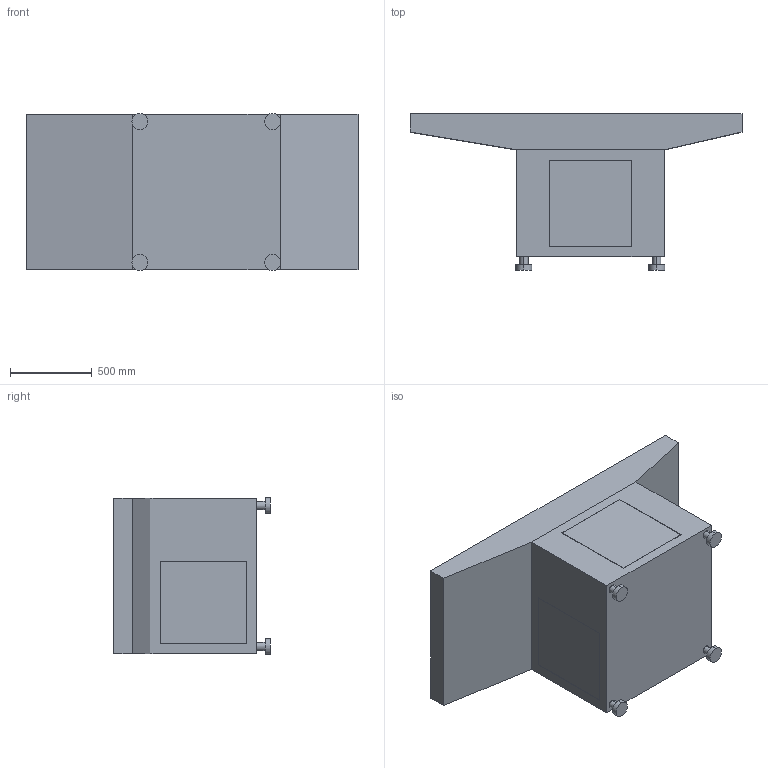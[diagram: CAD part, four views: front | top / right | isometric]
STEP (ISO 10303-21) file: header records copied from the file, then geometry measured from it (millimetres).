
FILE_DESCRIPTION (( 'STEP AP214' ), '1' );
FILE_NAME ('30297 PCNC-1100 BASE.STEP', '2014-06-18T15:03:00', ( '' ), ( '' ), 'SwSTEP 2.0', 'SolidWorks 2012', '' );
FILE_SCHEMA (( 'AUTOMOTIVE_DESIGN' ));
Length unit declared in the file: millimetre
Products named in the file (1): 30297 PCNC-1100 BASE
Bounding box: 2025 x 953.5 x 958 mm (x, y, z)
Volume: 586858754 mm3; surface area: 8789944.7 mm2
Topology: 2 solids, 2 shells, 117 faces, 270 edges, 180 vertices
Faces by surface type: plane 93, cylinder 24
Entity records: 3335 total; most frequent: CARTESIAN_POINT 568, DIRECTION 554, ORIENTED_EDGE 540, EDGE_CURVE 270, LINE 222, VECTOR 222, VERTEX_POINT 180, AXIS2_PLACEMENT_3D 166
